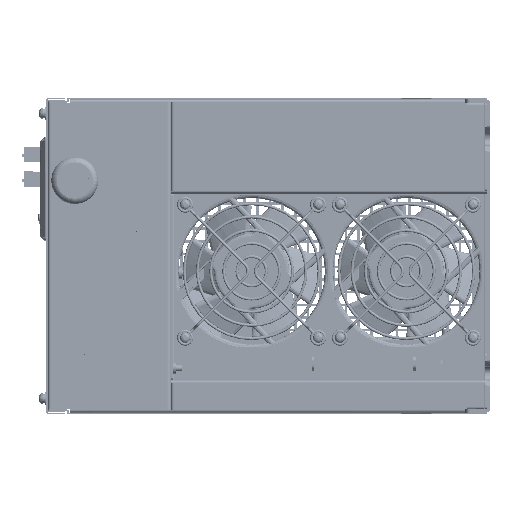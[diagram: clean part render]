
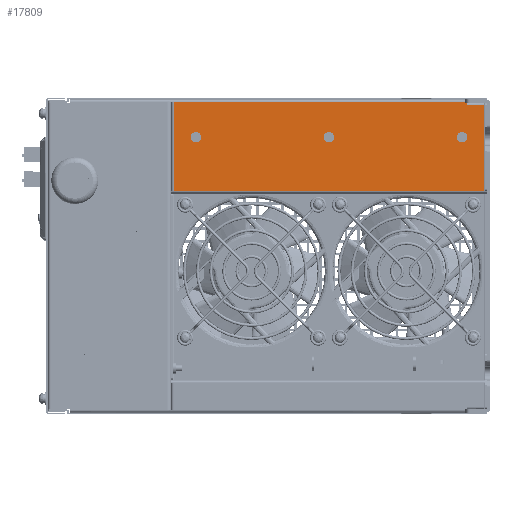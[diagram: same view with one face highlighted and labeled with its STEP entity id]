
A CAD part, left-side view. The second image highlights one B-rep face of the part: STEP entity #17809.
In plain terms, the highlighted planar face has unit normal (-1, 0, 0) as drawn and (0, 0, -1) by its records, which use the part's own axes.
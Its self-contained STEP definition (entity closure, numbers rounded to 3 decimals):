
#13148=DIRECTION('',(1.,0.,0.));
#13149=VECTOR('',#13148,245.);
#13150=CARTESIAN_POINT('',(2.,-0.5,-38.));
#13151=LINE('',#13150,#13149);
#13174=DIRECTION('',(-1.,0.,0.));
#13175=VECTOR('',#13174,1.);
#13176=CARTESIAN_POINT('',(233.,-70.,-38.));
#13177=LINE('',#13176,#13175);
#13178=DIRECTION('',(0.,-1.,0.));
#13179=VECTOR('',#13178,2.);
#13180=CARTESIAN_POINT('',(233.,-68.,-38.));
#13181=LINE('',#13180,#13179);
#13182=DIRECTION('',(0.,1.,0.));
#13183=VECTOR('',#13182,0.5);
#13184=CARTESIAN_POINT('',(232.,-70.5,-38.));
#13185=LINE('',#13184,#13183);
#13186=CARTESIAN_POINT('',(229.5,-42.67,-38.));
#13187=DIRECTION('',(0.,0.,-1.));
#13188=DIRECTION('',(1.,0.,0.));
#13189=AXIS2_PLACEMENT_3D('',#13186,#13187,#13188);
#13191=CARTESIAN_POINT('',(229.5,-42.67,-38.));
#13192=DIRECTION('',(0.,0.,-1.));
#13193=DIRECTION('',(-1.,0.,0.));
#13194=AXIS2_PLACEMENT_3D('',#13191,#13192,#13193);
#13196=CARTESIAN_POINT('',(124.5,-42.67,-38.));
#13197=DIRECTION('',(0.,0.,-1.));
#13198=DIRECTION('',(1.,0.,0.));
#13199=AXIS2_PLACEMENT_3D('',#13196,#13197,#13198);
#13201=CARTESIAN_POINT('',(124.5,-42.67,-38.));
#13202=DIRECTION('',(0.,0.,-1.));
#13203=DIRECTION('',(-1.,0.,0.));
#13204=AXIS2_PLACEMENT_3D('',#13201,#13202,#13203);
#13206=CARTESIAN_POINT('',(19.5,-42.67,-38.));
#13207=DIRECTION('',(0.,0.,-1.));
#13208=DIRECTION('',(1.,0.,0.));
#13209=AXIS2_PLACEMENT_3D('',#13206,#13207,#13208);
#13211=CARTESIAN_POINT('',(19.5,-42.67,-38.));
#13212=DIRECTION('',(0.,0.,-1.));
#13213=DIRECTION('',(-1.,0.,0.));
#13214=AXIS2_PLACEMENT_3D('',#13211,#13212,#13213);
#13279=DIRECTION('',(1.,0.,0.));
#13280=VECTOR('',#13279,230.);
#13281=CARTESIAN_POINT('',(2.,-70.5,-38.));
#13282=LINE('',#13281,#13280);
#13318=DIRECTION('',(0.,-1.,0.));
#13319=VECTOR('',#13318,70.);
#13320=CARTESIAN_POINT('',(2.,-0.5,-38.));
#13321=LINE('',#13320,#13319);
#13574=DIRECTION('',(0.,-1.,0.));
#13575=VECTOR('',#13574,67.5);
#13576=CARTESIAN_POINT('',(247.,-0.5,-38.));
#13577=LINE('',#13576,#13575);
#13609=DIRECTION('',(1.,0.,0.));
#13610=VECTOR('',#13609,14.);
#13611=CARTESIAN_POINT('',(233.,-68.,-38.));
#13612=LINE('',#13611,#13610);
#14689=CARTESIAN_POINT('',(2.,-70.5,-38.));
#14690=VERTEX_POINT('',#14689);
#14693=CARTESIAN_POINT('',(2.,-0.5,-38.));
#14694=VERTEX_POINT('',#14693);
#14766=CARTESIAN_POINT('',(232.,-70.5,-38.));
#14768=VERTEX_POINT('',#14766);
#14797=CARTESIAN_POINT('',(247.,-0.5,-38.));
#14798=VERTEX_POINT('',#14797);
#14881=CARTESIAN_POINT('',(247.,-68.,-38.));
#14882=VERTEX_POINT('',#14881);
#14885=CARTESIAN_POINT('',(233.,-68.,-38.));
#14886=CARTESIAN_POINT('',(233.,-70.,-38.));
#14887=VERTEX_POINT('',#14885);
#14888=VERTEX_POINT('',#14886);
#15229=CARTESIAN_POINT('',(232.,-70.,-38.));
#15231=VERTEX_POINT('',#15229);
#15281=CARTESIAN_POINT('',(231.5,-42.67,-38.));
#15282=CARTESIAN_POINT('',(227.5,-42.67,-38.));
#15283=VERTEX_POINT('',#15281);
#15284=VERTEX_POINT('',#15282);
#15285=CARTESIAN_POINT('',(126.5,-42.67,-38.));
#15286=CARTESIAN_POINT('',(122.5,-42.67,-38.));
#15287=VERTEX_POINT('',#15285);
#15288=VERTEX_POINT('',#15286);
#15289=CARTESIAN_POINT('',(21.5,-42.67,-38.));
#15290=CARTESIAN_POINT('',(17.5,-42.67,-38.));
#15291=VERTEX_POINT('',#15289);
#15292=VERTEX_POINT('',#15290);
#17769=CARTESIAN_POINT('',(249.,1.5,-38.));
#17770=DIRECTION('',(0.,0.,-1.));
#17771=DIRECTION('',(1.,0.,0.));
#17772=AXIS2_PLACEMENT_3D('',#17769,#17770,#17771);
#17773=PLANE('',#17772);
#17775=ORIENTED_EDGE('',*,*,#17774,.F.);
#17777=ORIENTED_EDGE('',*,*,#17776,.F.);
#17779=ORIENTED_EDGE('',*,*,#17778,.T.);
#17781=ORIENTED_EDGE('',*,*,#17780,.F.);
#17782=ORIENTED_EDGE('',*,*,#17756,.F.);
#17784=ORIENTED_EDGE('',*,*,#17783,.T.);
#17786=ORIENTED_EDGE('',*,*,#17785,.T.);
#17788=ORIENTED_EDGE('',*,*,#17787,.T.);
#17789=EDGE_LOOP('',(#17775,#17777,#17779,#17781,#17782,#17784,#17786,#17788));
#17790=FACE_OUTER_BOUND('',#17789,.F.);
#17792=ORIENTED_EDGE('',*,*,#17791,.T.);
#17794=ORIENTED_EDGE('',*,*,#17793,.T.);
#17795=EDGE_LOOP('',(#17792,#17794));
#17796=FACE_BOUND('',#17795,.F.);
#17798=ORIENTED_EDGE('',*,*,#17797,.T.);
#17800=ORIENTED_EDGE('',*,*,#17799,.T.);
#17801=EDGE_LOOP('',(#17798,#17800));
#17802=FACE_BOUND('',#17801,.F.);
#17804=ORIENTED_EDGE('',*,*,#17803,.T.);
#17806=ORIENTED_EDGE('',*,*,#17805,.T.);
#17807=EDGE_LOOP('',(#17804,#17806));
#17808=FACE_BOUND('',#17807,.F.);
#13190=CIRCLE('',#13189,2.);
#13195=CIRCLE('',#13194,2.);
#13200=CIRCLE('',#13199,2.);
#13205=CIRCLE('',#13204,2.);
#13210=CIRCLE('',#13209,2.);
#13215=CIRCLE('',#13214,2.);
#17756=EDGE_CURVE('',#14694,#14798,#13151,.T.);
#17774=EDGE_CURVE('',#14888,#15231,#13177,.T.);
#17776=EDGE_CURVE('',#14887,#14888,#13181,.T.);
#17778=EDGE_CURVE('',#14887,#14882,#13612,.T.);
#17780=EDGE_CURVE('',#14798,#14882,#13577,.T.);
#17783=EDGE_CURVE('',#14694,#14690,#13321,.T.);
#17785=EDGE_CURVE('',#14690,#14768,#13282,.T.);
#17787=EDGE_CURVE('',#14768,#15231,#13185,.T.);
#17791=EDGE_CURVE('',#15283,#15284,#13190,.T.);
#17793=EDGE_CURVE('',#15284,#15283,#13195,.T.);
#17797=EDGE_CURVE('',#15287,#15288,#13200,.T.);
#17799=EDGE_CURVE('',#15288,#15287,#13205,.T.);
#17803=EDGE_CURVE('',#15291,#15292,#13210,.T.);
#17805=EDGE_CURVE('',#15292,#15291,#13215,.T.);
#17809=ADVANCED_FACE('',(#17790,#17796,#17802,#17808),#17773,.T.);
